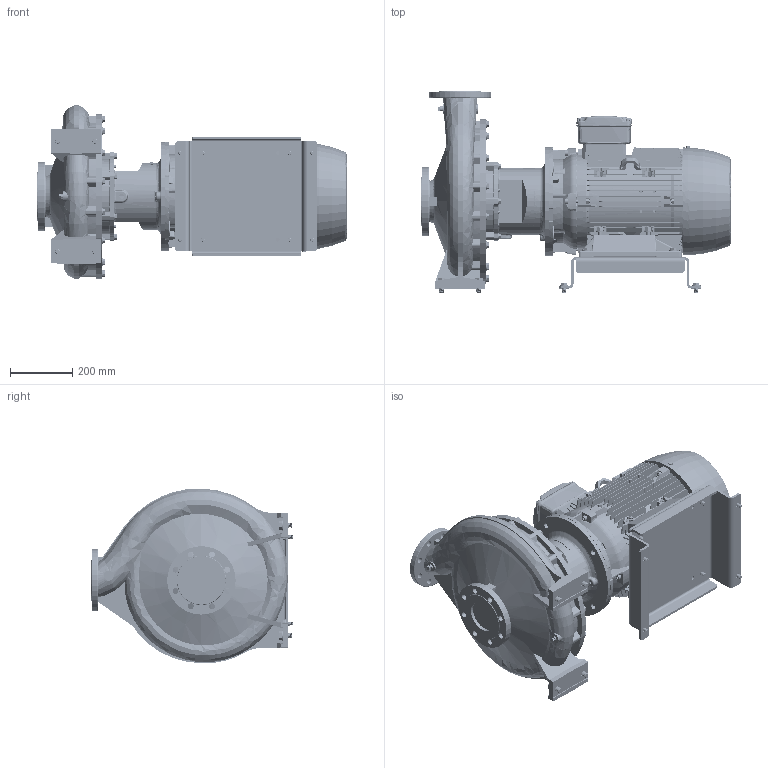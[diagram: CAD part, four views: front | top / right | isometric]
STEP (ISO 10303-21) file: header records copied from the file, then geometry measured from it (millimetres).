
FILE_DESCRIPTION (( 'STEP AP214' ), '1' );
FILE_NAME ('GSD4 80-400_22_(180ML)_W21.STEP', '2026-07-01T06:11:47', ( '' ), ( '' ), 'SwSTEP 2.0', 'SolidWorks 2024', '' );
FILE_SCHEMA (( 'AUTOMOTIVE_DESIGN' ));
Length unit declared in the file: millimetre
Products named in the file (12): GSD4 80-400_22_(180ML)_W21; CGS11-5264; Parametric bolt_SFT-A305B; Parametric bolt_SFT-A353B; Parametric Flat Washer_M12; 180M_L ALIE3_W21T_B35; Parametric bolt and washer_SFT-A297B; Parametric bolt_SFT-A297B; 80-400-180M_L_ﾃﾞﾌｫﾙﾄ; Parametric bolt and washer_SFT-A353B; Parametric Flat Washer_M16; Parametric bolt and washer_SFT-A305B
Assembly tree (21 placements, depth 3):
  GSD4 80-400_22_(180ML)_W21
    80-400-180M_L_ﾃﾞﾌｫﾙﾄ
    CGS11-5264
    Parametric bolt and washer_SFT-A297B  x4
      Parametric bolt_SFT-A297B
      Parametric Flat Washer_M12
    Parametric bolt and washer_SFT-A353B  x4
      Parametric bolt_SFT-A353B
      Parametric Flat Washer_M16
    Parametric bolt and washer_SFT-A305B  x4
      Parametric bolt_SFT-A305B
      Parametric Flat Washer_M12
    180M_L ALIE3_W21T_B35
Bounding box: 994.8 x 649.5 x 562.76 mm (x, y, z)
Volume: 81605657.8 mm3; surface area: 4511871.4 mm2
Topology: 58 solids, 59 shells, 6938 faces, 17990 edges, 11633 vertices
Faces by surface type: plane 4013, cylinder 1421, cone 702, bspline 460, torus 326, sphere 16
Entity records: 251912 total; most frequent: CARTESIAN_POINT 102163, ORIENTED_EDGE 32976, DIRECTION 27866, EDGE_CURVE 16488, VERTEX_POINT 10664, LINE 10106, VECTOR 10106, AXIS2_PLACEMENT_3D 8880
